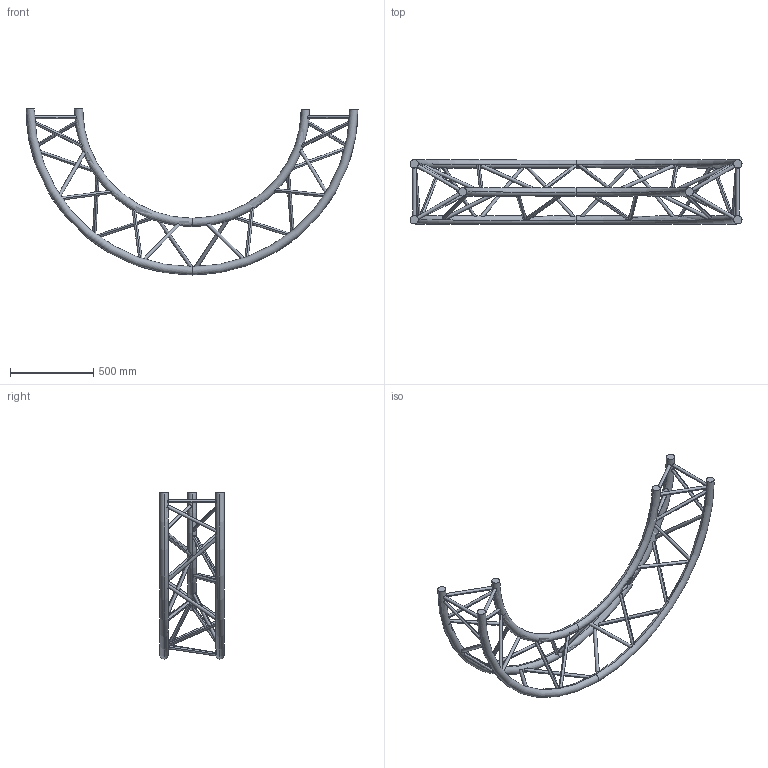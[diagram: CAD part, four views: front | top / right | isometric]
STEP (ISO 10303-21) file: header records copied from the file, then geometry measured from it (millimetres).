
FILE_DESCRIPTION (( 'STEP AP203' ), '1' );
FILE_NAME ('SXC39200PI.STEP', '2009-10-21T11:49:06', ( 'CEDIA' ), ( 'CEDIA INDUSTRIE' ), 'SwSTEP 2.0', 'SolidWorks 2009', '' );
FILE_SCHEMA (( 'CONFIG_CONTROL_DESIGN' ));
Length unit declared in the file: millimetre
Products named in the file (1): SXC39200PI
Bounding box: 2000 x 387 x 1000 mm (x, y, z)
Volume: 20130096.4 mm3; surface area: 2063630.2 mm2
Topology: 1 solids, 1 shells, 90 faces, 264 edges, 174 vertices
Faces by surface type: cylinder 72, torus 12, plane 6
Entity records: 9915 total; most frequent: CARTESIAN_POINT 7607, ORIENTED_EDGE 528, DIRECTION 316, EDGE_CURVE 264, VERTEX_POINT 174, EDGE_LOOP 156, B_SPLINE_CURVE_WITH_KNOTS 156, AXIS2_PLACEMENT_3D 122
